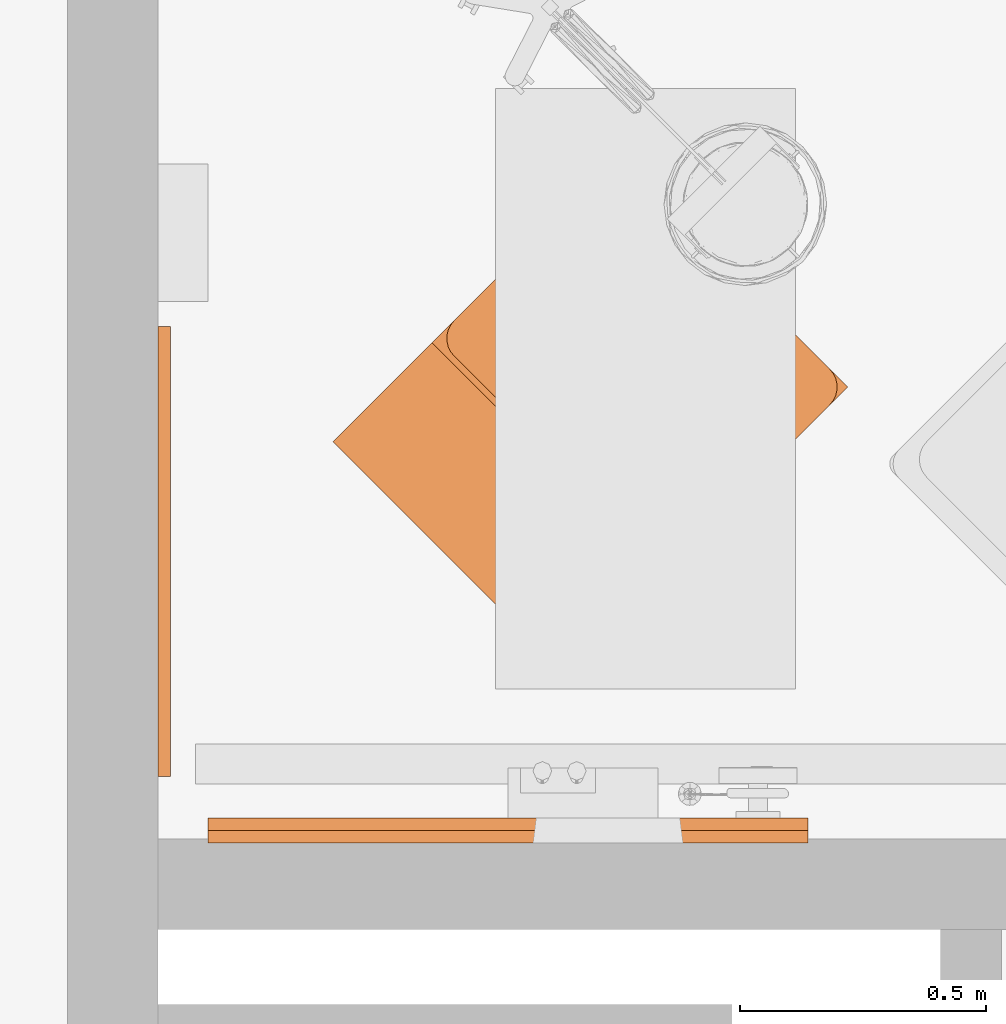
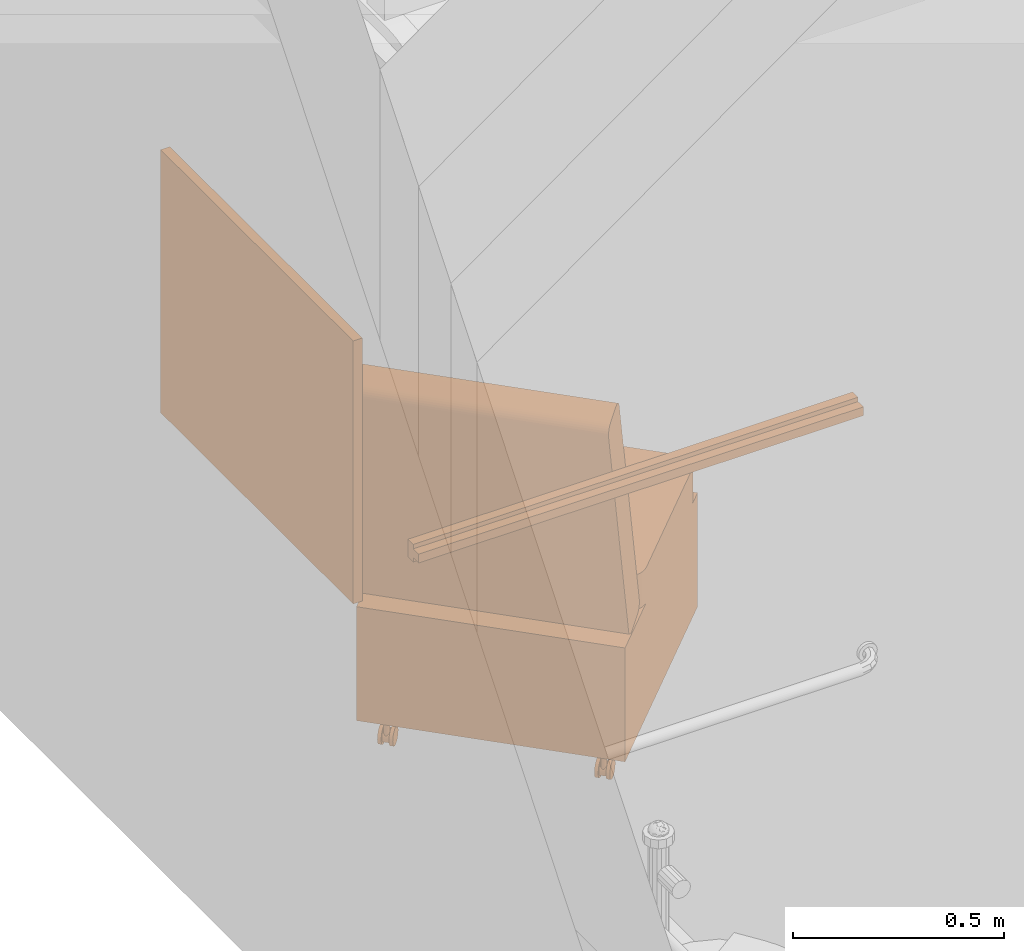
# One storey, part 22 of 142: 3 proxies.
"""IFC2X3 building model written with IfcOpenShell, lengths in feet."""

from ifc_helpers import new_model, entity, si_unit, converted_unit, derived_unit, direction, frame, frame_2d, origin, origin_2d_with_axis, place, context, subcontext, project, spatial, polyline, circle_curve, parameter, trimmed, segment, composite_curve, rectangle, circle, outline, extrude, source, transform, mapped, type_object, type_shapes, element, save


model = new_model("IFC2X3")

# Units and contexts
model_context = context("Model", 3, precision=0.0001, world=origin(), true_north=direction((6.12303176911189e-17, 1.0)))
body_context = subcontext(model_context, "Body", "Model", "MODEL_VIEW")
ifc_project = project(units=[converted_unit("LENGTHUNIT", "FOOT", entity("IfcRatioMeasure", 0.3048), si_unit("LENGTHUNIT", "METRE"), dimensions=[1, 0, 0, 0, 0, 0, 0]), converted_unit("AREAUNIT", "SQUARE FOOT", entity("IfcRatioMeasure", 0.09290304), si_unit("AREAUNIT", "SQUARE_METRE"), dimensions=[2, 0, 0, 0, 0, 0, 0]), converted_unit("VOLUMEUNIT", "CUBIC FOOT", entity("IfcRatioMeasure", 0.028316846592), si_unit("VOLUMEUNIT", "CUBIC_METRE"), dimensions=[3, 0, 0, 0, 0, 0, 0]), converted_unit("PLANEANGLEUNIT", "DEGREE", entity("IfcRatioMeasure", 0.0174532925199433), si_unit("PLANEANGLEUNIT", "RADIAN"), dimensions=[0, 0, 0, 0, 0, 0, 0]), si_unit("MASSUNIT", "GRAM", prefix="KILO"), derived_unit("MASSDENSITYUNIT", [(si_unit("MASSUNIT", "GRAM", prefix="KILO"), 1), (si_unit("LENGTHUNIT", "METRE"), -3)]), si_unit("TIMEUNIT", "SECOND"), si_unit("FREQUENCYUNIT", "HERTZ"), si_unit("THERMODYNAMICTEMPERATUREUNIT", "DEGREE_CELSIUS"), derived_unit("THERMALTRANSMITTANCEUNIT", [(si_unit("MASSUNIT", "GRAM", prefix="KILO"), 1), (si_unit("THERMODYNAMICTEMPERATUREUNIT", "KELVIN"), -1), (si_unit("TIMEUNIT", "SECOND"), -3)]), derived_unit("VOLUMETRICFLOWRATEUNIT", [(si_unit("LENGTHUNIT", "METRE"), 3), (si_unit("TIMEUNIT", "SECOND"), -1)]), si_unit("ELECTRICCURRENTUNIT", "AMPERE"), si_unit("ELECTRICVOLTAGEUNIT", "VOLT"), si_unit("POWERUNIT", "WATT"), si_unit("FORCEUNIT", "NEWTON"), si_unit("ILLUMINANCEUNIT", "LUX"), si_unit("LUMINOUSFLUXUNIT", "LUMEN"), si_unit("LUMINOUSINTENSITYUNIT", "CANDELA"), derived_unit("USERDEFINED", [(si_unit("MASSUNIT", "GRAM", prefix="KILO"), -1), (si_unit("LENGTHUNIT", "METRE"), -2), (si_unit("TIMEUNIT", "SECOND"), 3), (si_unit("LUMINOUSFLUXUNIT", "LUMEN"), 1)]), derived_unit("LINEARVELOCITYUNIT", [(si_unit("LENGTHUNIT", "METRE"), 1), (si_unit("TIMEUNIT", "SECOND"), -1)]), si_unit("PRESSUREUNIT", "PASCAL"), derived_unit("USERDEFINED", [(si_unit("LENGTHUNIT", "METRE"), -2), (si_unit("MASSUNIT", "GRAM", prefix="KILO"), 1), (si_unit("TIMEUNIT", "SECOND"), -2)])], contexts=[model_context])

# Site, building, storey, space
site_placement = place(None, origin())
site = spatial("IfcSite", under=ifc_project, at=site_placement, Name="Default", CompositionType="ELEMENT")
building_placement = place(site_placement, origin())
building = spatial("IfcBuilding", under=site, at=building_placement, Name="OUTPATIENT / PACT CLINIC (Ch. 265)", CompositionType="ELEMENT")
storey_placement = place(building_placement, origin())
storey = spatial("IfcBuildingStorey", under=building, at=storey_placement, Name="LEVEL 1", CompositionType="ELEMENT", Elevation=0.0)
space_placement = place(storey_placement, origin())
space = spatial("IfcSpace", under=storey, at=space_placement, Name="EXW01", CompositionType="ELEMENT", InteriorOrExteriorSpace="INTERNAL")

# Proxies
building_element_proxy_type_1 = type_object("IfcBuildingElementProxyType", Name="F3025 - Board, Bulletin, Wood Framed", PredefinedType="NOTDEFINED")
shared_shape_1 = source(origin(), body_context, "Body", "SweptSolid", [
    extrude(rectangle(XDim=0.0416666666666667, YDim=2.74999999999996, at=origin_2d_with_axis()), frame((0.0, -0.020833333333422, 0.124999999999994), z_axis=(0.0, 0.0, 1.0), x_axis=(0.0, 1.0, 0.0)), (0.0, 0.0, 1.0), 2.25000000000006),
    extrude(outline(polyline([(-1.49999999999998, -1.25), (1.49999999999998, -1.25), (1.49999999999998, 1.25), (-1.49999999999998, 1.25), (-1.49999999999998, -1.25)]), holes=[polyline([(-1.37499999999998, -1.125), (-1.37499999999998, 1.12500000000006), (1.37499999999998, 1.12500000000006), (1.37499999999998, -1.125), (-1.37499999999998, -1.125)])]), frame((0.0, -0.0833333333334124, 1.25), z_axis=(0.0, 1.0, 0.0), x_axis=(-1.0, 0.0, 0.0)), (0.0, 0.0, 1.0), 0.0833333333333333),
])
type_shapes(building_element_proxy_type_1, [shared_shape_1])
proxy_1_placement = place(space_placement, frame((435.254977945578, -929.524675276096, 3.5), z_axis=(0.0, 0.0, 1.0), x_axis=(0.0, 1.0, 0.0)))
element("IfcBuildingElementProxy", 1, at=proxy_1_placement, inside=space, type_object=building_element_proxy_type_1, Name="F3025 - Board, Bulletin, Wood Framed1:F3025 - Board, Bulletin, Wood Framed", ObjectType="F3025 - Board, Bulletin, Wood Framed", context=body_context, shape_type="MappedRepresentation", body=[
    mapped(shared_shape_1, transform((0.0, 0.0, 0.0), scale=1.0)),
])
building_element_proxy_type_2 = type_object("IfcBuildingElementProxyType", Name="Exam/Treatment Table with Cabinet", PredefinedType="NOTDEFINED")
shared_shape_2 = source(origin(), body_context, "Body", "SweptSolid", [
    extrude(circle(Radius=0.0833333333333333, at=frame_2d((0.0, -1.38777878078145e-16), x_axis=(1.0, 0.0))), frame((-0.843750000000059, 0.432291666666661, 0.0833333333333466), z_axis=(1.0, 0.0, 0.0), x_axis=(0.0, 1.0, 0.0)), (0.0, 0.0, 1.0), 0.0312500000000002),
    extrude(circle(Radius=0.0260416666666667, at=frame_2d((0.0, -5.55111512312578e-17), x_axis=(1.0, 0.0))), frame((-0.87500000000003, 0.463541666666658, 0.0801325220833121), z_axis=(0.0, 0.0, 1.0), x_axis=(-1.0, 0.0, 0.0)), (0.0, 0.0, 1.0), 0.211534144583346),
    extrude(circle(Radius=0.0625, at=frame_2d((0.0, -2.77555756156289e-16), x_axis=(1.0, 0.0))), frame((-0.90625000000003, 0.432291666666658, 0.0833333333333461), z_axis=(1.0, 0.0, 0.0), x_axis=(0.0, -1.0, 0.0)), (0.0, 0.0, 1.0), 0.0625),
    extrude(circle(Radius=0.0833333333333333, at=frame_2d((0.0, -1.38777878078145e-16), x_axis=(1.0, 0.0))), frame((-0.93750000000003, 0.432291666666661, 0.0833333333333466), z_axis=(1.0, 0.0, 0.0), x_axis=(0.0, 1.0, 0.0)), (0.0, 0.0, 1.0), 0.0312500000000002),
    extrude(circle(Radius=0.0833333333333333, at=frame_2d((0.0, -3.7470027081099e-16), x_axis=(1.0, 0.0))), frame((0.81250000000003, 0.432291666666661, 0.083333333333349), z_axis=(1.0, 0.0, 0.0), x_axis=(0.0, 1.0, 0.0)), (0.0, 0.0, 1.0), 0.0312500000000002),
    extrude(circle(Radius=0.0260416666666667, at=frame_2d((0.0, -5.55111512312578e-17), x_axis=(1.0, 0.0))), frame((0.875000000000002, 0.463541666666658, 0.0801325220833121)), (0.0, 0.0, 1.0), 0.211534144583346),
    extrude(circle(Radius=0.0625, at=frame_2d((0.0, -1.11022302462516e-16), x_axis=(1.0, 0.0))), frame((0.843750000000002, 0.432291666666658, 0.0833333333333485), z_axis=(1.0, 0.0, 0.0), x_axis=(0.0, -1.0, 0.0)), (0.0, 0.0, 1.0), 0.0625),
    extrude(circle(Radius=0.0833333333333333, at=frame_2d((0.0, -3.7470027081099e-16), x_axis=(1.0, 0.0))), frame((0.906250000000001, 0.432291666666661, 0.083333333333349), z_axis=(1.0, 0.0, 0.0), x_axis=(0.0, 1.0, 0.0)), (0.0, 0.0, 1.0), 0.0312500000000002),
    extrude(circle(Radius=0.0833333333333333, at=frame_2d((0.0, -1.38777878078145e-16), x_axis=(1.0, 0.0))), frame((-0.843750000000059, -1.41145833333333, 0.0833333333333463), z_axis=(1.0, 0.0, 0.0), x_axis=(0.0, -1.0, 0.0)), (0.0, 0.0, 1.0), 0.0312500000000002),
    extrude(circle(Radius=0.0260416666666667, at=origin_2d_with_axis()), frame((-0.87500000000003, -1.44270833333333, 0.0801325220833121), z_axis=(0.0, 0.0, 1.0), x_axis=(-1.0, 0.0, 0.0)), (0.0, 0.0, 1.0), 0.211534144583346),
    extrude(circle(Radius=0.0625, at=frame_2d((0.0, -2.77555756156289e-16), x_axis=(1.0, 0.0))), frame((-0.90625000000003, -1.41145833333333, 0.0833333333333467), z_axis=(1.0, 0.0, 0.0), x_axis=(0.0, 1.0, 0.0)), (0.0, 0.0, 1.0), 0.0625),
    extrude(circle(Radius=0.0833333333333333, at=frame_2d((0.0, -1.38777878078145e-16), x_axis=(1.0, 0.0))), frame((-0.93750000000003, -1.41145833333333, 0.0833333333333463), z_axis=(1.0, 0.0, 0.0), x_axis=(0.0, -1.0, 0.0)), (0.0, 0.0, 1.0), 0.0312500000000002),
    extrude(circle(Radius=0.0833333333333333, at=frame_2d((0.0, -3.7470027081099e-16), x_axis=(1.0, 0.0))), frame((0.81250000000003, -1.41145833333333, 0.0833333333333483), z_axis=(1.0, 0.0, 0.0), x_axis=(0.0, -1.0, 0.0)), (0.0, 0.0, 1.0), 0.0312500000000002),
    extrude(circle(Radius=0.0260416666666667, at=origin_2d_with_axis()), frame((0.875000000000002, -1.44270833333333, 0.0801325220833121)), (0.0, 0.0, 1.0), 0.211534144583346),
    extrude(circle(Radius=0.0625, at=frame_2d((0.0, -1.11022302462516e-16), x_axis=(1.0, 0.0))), frame((0.843750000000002, -1.41145833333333, 0.0833333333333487), z_axis=(1.0, 0.0, 0.0), x_axis=(0.0, 1.0, 0.0)), (0.0, 0.0, 1.0), 0.0625),
    extrude(circle(Radius=0.0833333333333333, at=frame_2d((0.0, -3.7470027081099e-16), x_axis=(1.0, 0.0))), frame((0.906250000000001, -1.41145833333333, 0.0833333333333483), z_axis=(1.0, 0.0, 0.0), x_axis=(0.0, -1.0, 0.0)), (0.0, 0.0, 1.0), 0.0312500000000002),
    extrude(rectangle(XDim=2.1666666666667, YDim=2.18316882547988, at=origin_2d_with_axis()), frame((0.0, -0.491748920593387, 0.291666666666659), z_axis=(0.0, 0.0, 1.0), x_axis=(-1.0, 0.0, 0.0)), (0.0, 0.0, 1.0), 1.08333333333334),
    extrude(outline(composite_curve([segment(trimmed(circle_curve(frame_2d((-0.221258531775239, -1.14772335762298), x_axis=(1.0, 0.0)), 0.0833333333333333), [parameter(255.0)], [parameter(345.0)], True, "PARAMETER"), True, "CONTINUOUS"), segment(polyline([(-0.140764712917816, -1.16929161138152), (0.462739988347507, 1.08301859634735)]), True, "CONTINUOUS"), segment(trimmed(circle_curve(frame_2d((0.382246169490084, 1.10458685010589), x_axis=(1.0, 0.0)), 0.0833333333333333), [parameter(345.000000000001)], [parameter(75.0000000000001)], True, "PARAMETER"), True, "CONTINUOUS"), segment(polyline([(0.403814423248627, 1.18508066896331), (0.242826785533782, 1.2282171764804)]), True, "CONTINUOUS"), segment(trimmed(circle_curve(frame_2d((0.221258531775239, 1.14772335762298), x_axis=(1.0, 0.0)), 0.0833333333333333), [parameter(74.9999999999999)], [parameter(165.0)], True, "PARAMETER"), True, "CONTINUOUS"), segment(polyline([(0.140764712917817, 1.16929161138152), (-0.462739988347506, -1.08301859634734)]), True, "CONTINUOUS"), segment(trimmed(circle_curve(frame_2d((-0.382246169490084, -1.10458685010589), x_axis=(1.0, 0.0)), 0.0833333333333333), [parameter(165.0)], [parameter(255.0)], True, "PARAMETER"), True, "CONTINUOUS"), segment(polyline([(-0.403814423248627, -1.18508066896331), (-0.242826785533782, -1.2282171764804)]), True, "CONTINUOUS")], self_intersect=False)), frame((-1.08333333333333, 0.632933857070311, 2.62668441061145), z_axis=(1.0, 0.0, 0.0), x_axis=(0.0, 1.0, 0.0)), (0.0, 0.0, 1.0), 2.16666666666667),
    extrude(outline(composite_curve([segment(polyline([(-0.916666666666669, -0.854166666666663), (0.91666666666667, -0.854166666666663)]), True, "CONTINUOUS"), segment(trimmed(circle_curve(frame_2d((0.916666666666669, -0.687499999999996), x_axis=(-1.0, 0.0)), 0.166666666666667), [parameter(90.0000000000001)], [parameter(180.0)], True, "PARAMETER"), True, "CONTINUOUS"), segment(polyline([(1.08333333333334, -0.687499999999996), (1.08333333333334, 0.687499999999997)]), True, "CONTINUOUS"), segment(trimmed(circle_curve(frame_2d((0.916666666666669, 0.687499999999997), x_axis=(-1.0, 0.0)), 0.166666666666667), [parameter(180.0)], [parameter(270.0)], True, "PARAMETER"), True, "CONTINUOUS"), segment(polyline([(0.916666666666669, 0.854166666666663), (-0.91666666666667, 0.854166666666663)]), True, "CONTINUOUS"), segment(trimmed(circle_curve(frame_2d((-0.916666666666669, 0.687499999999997), x_axis=(-1.0, 0.0)), 0.166666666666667), [parameter(270.0)], [parameter(0.0)], True, "PARAMETER"), True, "CONTINUOUS"), segment(polyline([(-1.08333333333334, 0.687499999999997), (-1.08333333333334, -0.687499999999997)]), True, "CONTINUOUS"), segment(trimmed(circle_curve(frame_2d((-0.916666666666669, -0.687499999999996), x_axis=(-1.0, 0.0)), 0.166666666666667), [parameter(0.0)], [parameter(90.0000000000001)], True, "PARAMETER"), True, "CONTINUOUS")], self_intersect=False)), frame((0.0, -0.729166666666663, 1.375), z_axis=(0.0, 0.0, 1.0), x_axis=(-1.0, 0.0, 0.0)), (0.0, 0.0, 1.0), 0.333333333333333),
])
type_shapes(building_element_proxy_type_2, [shared_shape_2])
proxy_2_placement = place(space_placement, frame((437.965553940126, -928.782849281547, 0.0), z_axis=(0.0, 0.0, 1.0), x_axis=(-0.707106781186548, 0.707106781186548, 0.0)))
element("IfcBuildingElementProxy", 2, at=proxy_2_placement, inside=space, type_object=building_element_proxy_type_2, Name="M9025 - Exam Table1:Exam/Treatment Table with Cabinet", ObjectType="Exam/Treatment Table with Cabinet", context=body_context, shape_type="MappedRepresentation", body=[
    mapped(shared_shape_2, transform((0.0, 0.0, 0.0), scale=1.0)),
])
building_element_proxy_type_3 = type_object("IfcBuildingElementProxyType", Name="A1132 - Rail, Accessory Mounting", PredefinedType="NOTDEFINED")
shared_shape_3 = source(origin(), body_context, "Body", "SweptSolid", [
    extrude(outline(polyline([(0.0416666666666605, 0.0), (0.0833333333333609, 0.0), (0.083333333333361, 0.0833333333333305), (-0.0833333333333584, 0.0833333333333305), (-0.0833333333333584, 0.0), (-0.0416666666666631, 0.0), (-0.0416666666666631, -0.0833333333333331), (0.0416666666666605, -0.0833333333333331), (0.0416666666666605, 0.0)])), frame((-2.0, -0.0833333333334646, 0.0833333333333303), z_axis=(1.0, 0.0, 0.0), x_axis=(0.0, 0.0, 1.0)), (0.0, 0.0, 1.0), 4.0),
])
type_shapes(building_element_proxy_type_3, [shared_shape_3])
proxy_3_placement = place(space_placement, frame((437.588311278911, -931.467383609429, 4.0), z_axis=(0.0, 0.0, 1.0), x_axis=(-1.0, 0.0, 0.0)))
element("IfcBuildingElementProxy", 3, at=proxy_3_placement, inside=space, type_object=building_element_proxy_type_3, Name="A1132 - Rail, Accessory Mounting:A1132 - Rail, Accessory Mounting", ObjectType="A1132 - Rail, Accessory Mounting", context=body_context, shape_type="MappedRepresentation", body=[
    mapped(shared_shape_3, transform((0.0, 0.0, 0.0), scale=1.0)),
])

save(model, "model.ifc")
